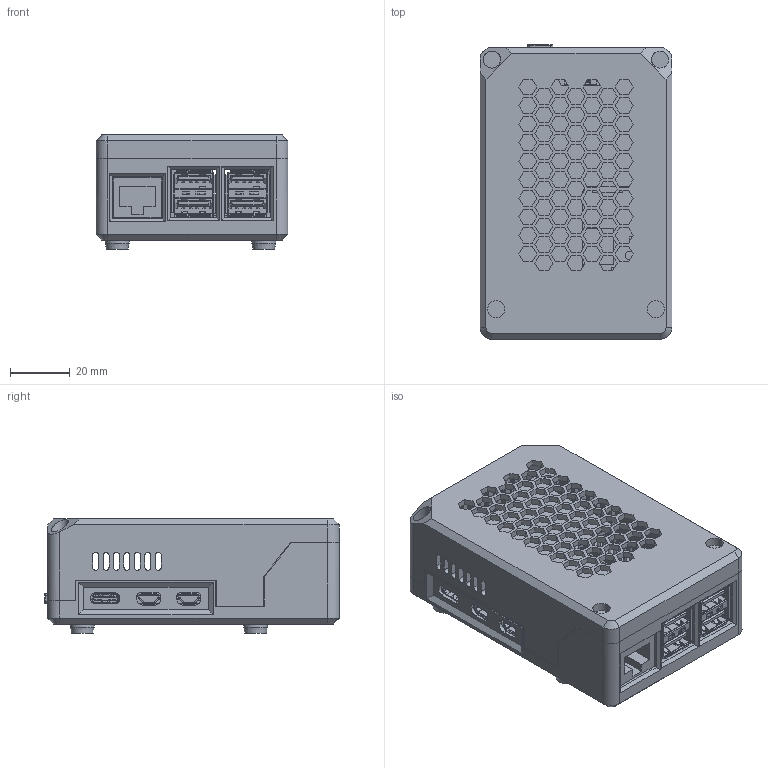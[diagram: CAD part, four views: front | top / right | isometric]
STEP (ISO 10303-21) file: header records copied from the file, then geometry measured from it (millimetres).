
FILE_DESCRIPTION(/* description */ (''),/* implementation_level */ '2;1');
FILE_NAME(/* name */ 'RPi5 + X100 Case v14.step',/* time_stamp */ '2024-07-29T00:08:04+02:00',/* author */ (''),/* organization */ (''),/* preprocessor_version */ 'ST-DEVELOPER v20',/* originating_system */ 'Autodesk Translation Framework v13.14.0.145',/* authorisation */ '');
FILE_SCHEMA (('AUTOMOTIVE_DESIGN { 1 0 10303 214 3 1 1 }'));
Products named in the file (26): RPi5 + X100 Case; RPi5 + X1001; Raspberry_Pi_5_3D_model; PCB_for REF 060923; GPIO Header for REF; Micro HDMI for REF; SD CARD for REF; USB-C for REF; RJ45 for REF; USB for REF; PCIe for REF; CAM-DISP for REF; LED for REF; BAT Header for REF; PoE Header for REF; FAN Header for REF; SWITCH for REF; UART for REF; X1001; PCB; M2; Case; CaseUpper; CaseLower; PowerButton; Spacer
Assembly tree (31 placements, depth 4):
  RPi5 + X100 Case
    RPi5 + X1001
      Raspberry_Pi_5_3D_model
        PCB_for REF 060923
        GPIO Header for REF
        Micro HDMI for REF  x2
        SD CARD for REF
        USB-C for REF
        RJ45 for REF
        USB for REF  x2
        PCIe for REF
        CAM-DISP for REF  x2
        LED for REF
        BAT Header for REF
        PoE Header for REF
        FAN Header for REF
        SWITCH for REF
        UART for REF
      X1001
        PCB
        M2
    Case
      CaseUpper
      CaseLower
      PowerButton
      Spacer  x4
Bounding box: 64.2 x 98.5 x 38.2 mm (x, y, z)
Volume: 65007.4 mm3; surface area: 79208.5 mm2
Topology: 56 solids, 56 shells, 3813 faces, 10441 edges, 6873 vertices
Faces by surface type: plane 2832, cylinder 924, cone 26, bspline 25, torus 6
Full cylindrical faces by diameter (mm): 1 x82, 2 x1, 2.3 x1, 2.6 x2, 2.7 x14, 2.8 x2, 3 x2, 3.4 x4, 5.7 x2, 5.8 x2, 6 x4, 8 x4
Entity records: 99369 total; most frequent: CARTESIAN_POINT 17947, ORIENTED_EDGE 16962, DIRECTION 16225, EDGE_CURVE 8481, LINE 6923, VECTOR 6923, VERTEX_POINT 5593, AXIS2_PLACEMENT_3D 4651
